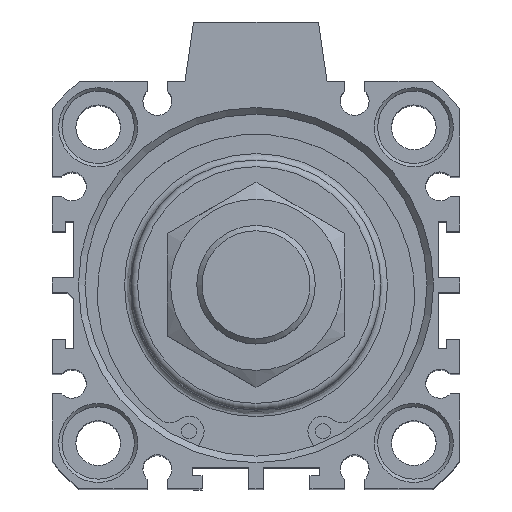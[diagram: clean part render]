
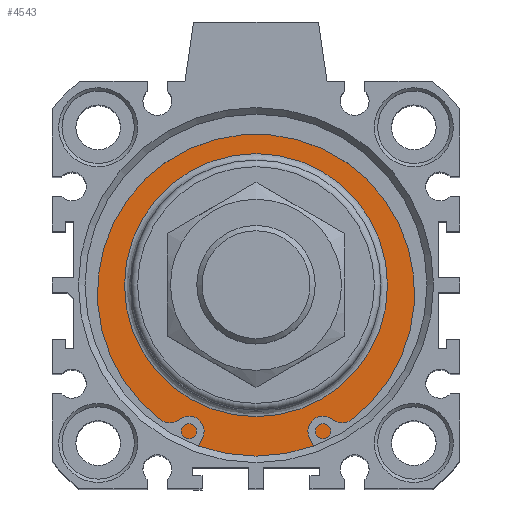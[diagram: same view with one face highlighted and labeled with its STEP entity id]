
A CAD part, top view. The second image highlights one B-rep face of the part: STEP entity #4543.
In plain terms, the highlighted planar face has unit normal (0, 0, 1).
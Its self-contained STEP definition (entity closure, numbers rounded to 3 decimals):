
#4492=CARTESIAN_POINT('',(-0.12,20.837,84.3));
#4493=VERTEX_POINT('',#4492);
#4494=CARTESIAN_POINT('',(-0.12,0.837,84.3));
#4495=DIRECTION('',(0.0,0.0,1.0));
#4496=DIRECTION('',(0.0,-1.0,0.0));
#4497=AXIS2_PLACEMENT_3D('',#4494,#4495,#4496);
#4498=CIRCLE('',#4497,20.);
#4499=EDGE_CURVE('',#4493,#4493,#4498,.T.);
#4524=CARTESIAN_POINT('',(-0.12,23.337,84.3));
#4525=DIRECTION('',(0.0,0.0,1.0));
#4526=DIRECTION('',(1.0,0.0,0.0));
#4527=AXIS2_PLACEMENT_3D('',#4524,#4525,#4526);
#4528=PLANE('',#4527);
#4529=CARTESIAN_POINT('',(-0.12,26.837,84.3));
#4530=VERTEX_POINT('',#4529);
#4531=CARTESIAN_POINT('',(-0.12,0.837,84.3));
#4532=DIRECTION('',(0.0,0.0,-1.0));
#4533=DIRECTION('',(0.0,1.0,0.0));
#4534=AXIS2_PLACEMENT_3D('',#4531,#4532,#4533);
#4535=CIRCLE('',#4534,26.);
#4536=EDGE_CURVE('',#4530,#4530,#4535,.T.);
#4537=ORIENTED_EDGE('',*,*,#4536,.F.);
#4538=EDGE_LOOP('',(#4537));
#4539=FACE_OUTER_BOUND('',#4538,.T.);
#4540=ORIENTED_EDGE('',*,*,#4499,.F.);
#4541=EDGE_LOOP('',(#4540));
#4542=FACE_BOUND('',#4541,.T.);
#4543=ADVANCED_FACE('',(#4539,#4542),#4528,.T.);
